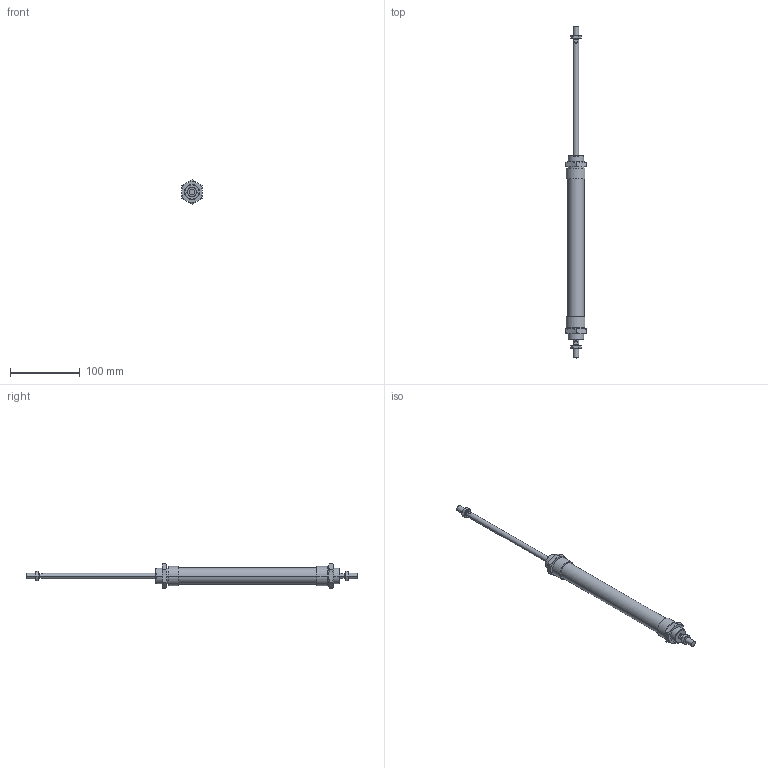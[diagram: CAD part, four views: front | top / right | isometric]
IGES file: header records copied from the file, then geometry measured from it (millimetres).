
Global section: file name: No Iges File Name specified; native system: AutoDesk Inventor R6.0; preprocessor: AutoDesk Inventor Iges Exporter R6.0; author: No Author specified; organization: No Organization specified; date: 20030403.072333; units: millimetre
Bounding box: 30 x 476 x 34.64 mm (x, y, z)
Volume: 137844.2 mm3; surface area: 45311.6 mm2
Topology: 6 solids, 6 shells, 186 faces, 414 edges, 244 vertices
Faces by surface type: cone 68, plane 60, bspline 32, cylinder 20, revolution 6
